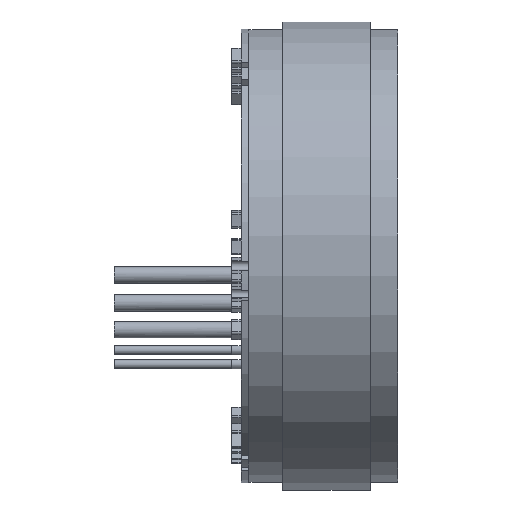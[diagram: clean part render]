
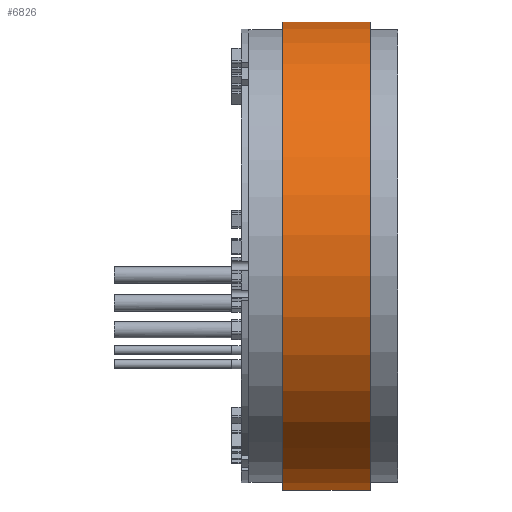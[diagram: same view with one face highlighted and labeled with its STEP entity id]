
A CAD part, front view. The second image highlights one B-rep face of the part: STEP entity #6826.
In plain terms, the highlighted cylindrical face has radius 30 mm (diameter 60 mm), a full revolution.
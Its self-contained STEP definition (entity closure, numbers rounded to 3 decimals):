
#6759=CARTESIAN_POINT('',(30.,0.,0.));
#6760=VERTEX_POINT('',#6759);
#6761=CARTESIAN_POINT('',(0.,0.,0.));
#6762=DIRECTION('',(1.,-0.,-0.));
#6763=DIRECTION('',(0.,-0.,1.));
#6764=AXIS2_PLACEMENT_3D('',#6761,#6763,#6762);
#6765=CIRCLE('',#6764,30.);
#6766=EDGE_CURVE('',#6760,#6760,#6765,.T.);
#6787=CARTESIAN_POINT('',(30.,0.,-11.2));
#6788=VERTEX_POINT('',#6787);
#6789=CARTESIAN_POINT('',(0.,0.,-11.2));
#6790=DIRECTION('',(1.,-0.,0.));
#6791=DIRECTION('',(0.,0.,1.));
#6792=AXIS2_PLACEMENT_3D('',#6789,#6791,#6790);
#6793=CIRCLE('',#6792,30.);
#6794=EDGE_CURVE('',#6788,#6788,#6793,.T.);
#6810=CARTESIAN_POINT('',(0.,0.,0.));
#6811=DIRECTION('',(1.,0.,0.));
#6812=DIRECTION('',(0.,0.,-1.));
#6813=AXIS2_PLACEMENT_3D('',#6810,#6812,#6811);
#6814=CYLINDRICAL_SURFACE('',#6813,30.);
#6815=ORIENTED_EDGE('',*,*,#6766,.T.);
#6816=CARTESIAN_POINT('',(30.,0.,0.));
#6817=DIRECTION('',(0.,0.,-1.));
#6818=VECTOR('',#6817,11.2);
#6819=LINE('',#6816,#6818);
#6820=EDGE_CURVE('',#6760,#6788,#6819,.T.);
#6821=ORIENTED_EDGE('',*,*,#6820,.T.);
#6822=ORIENTED_EDGE('',*,*,#6794,.F.);
#6823=ORIENTED_EDGE('',*,*,#6820,.F.);
#6824=EDGE_LOOP('',(#6815,#6821,#6822,#6823));
#6825=FACE_OUTER_BOUND('',#6824,.F.);
#6826=ADVANCED_FACE('',(#6825),#6814,.T.);
